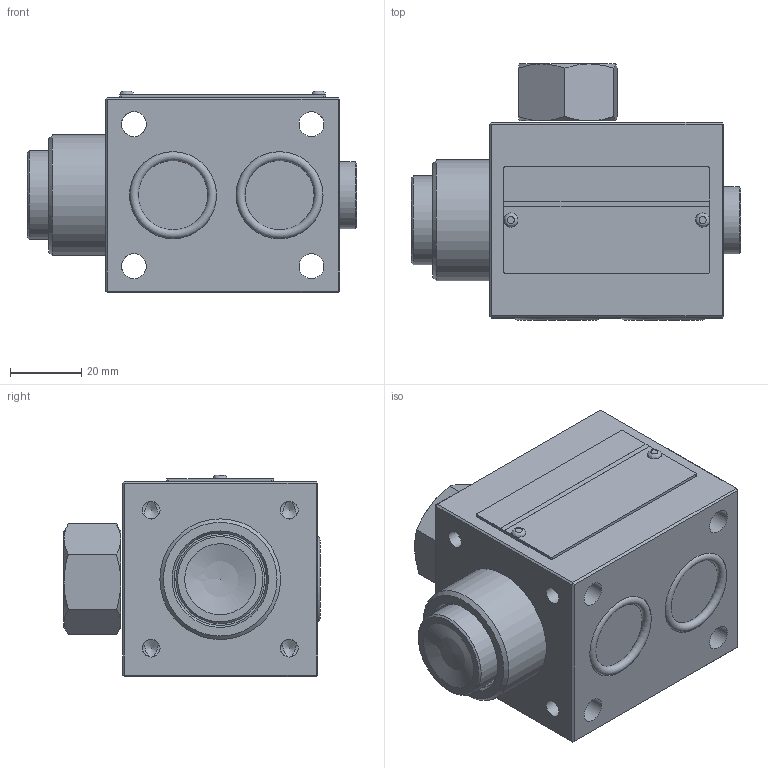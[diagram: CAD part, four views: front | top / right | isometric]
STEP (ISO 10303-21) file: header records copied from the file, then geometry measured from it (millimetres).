
FILE_DESCRIPTION(/* description */ (''),/* implementation_level */ '2;1');
FILE_NAME(/* name */ 'AF6E-3XJ压力表开关.prt.stp',/* time_stamp */ '2022-03-30T19:53:43+08:00',/* author */ (''),/* organization */ (''),/* preprocessor_version */ 'ST-DEVELOPER v16.7',/* originating_system */ 'SIEMENS PLM Software NX 12.0',/* authorisation */ '');
FILE_SCHEMA (('AUTOMOTIVE_DESIGN { 1 0 10303 214 3 1 1 1 }'));
Length unit declared in the file: millimetre
Products named in the file (1): AF6E-3XJ压力表开关
Bounding box: 92.7 x 72.1 x 56.8 mm (x, y, z)
Volume: 218955.5 mm3; surface area: 43982.7 mm2
Topology: 10 solids, 11 shells, 176 faces, 397 edges, 248 vertices
Faces by surface type: plane 85, cylinder 49, cone 30, bspline 9, torus 2, sphere 1
Full cylindrical faces by diameter (mm): 1.8 x4, 2.5 x2, 5 x4, 5.2 x1, 7 x4, 8 x1, 11.093 x1, 11.1 x1, 12.4 x1, 12.5 x1, 14 x1, 16.2 x2, 18.9 x1, 21 x1, 24 x1, 24.5 x4, 25 x1, 26 x1, 34 x1
Entity records: 7769 total; most frequent: CARTESIAN_POINT 3993, DIRECTION 678, ORIENTED_EDGE 600, EDGE_CURVE 300, AXIS2_PLACEMENT_3D 284, EDGE_LOOP 271, VERTEX_POINT 223, FACE_BOUND 186
